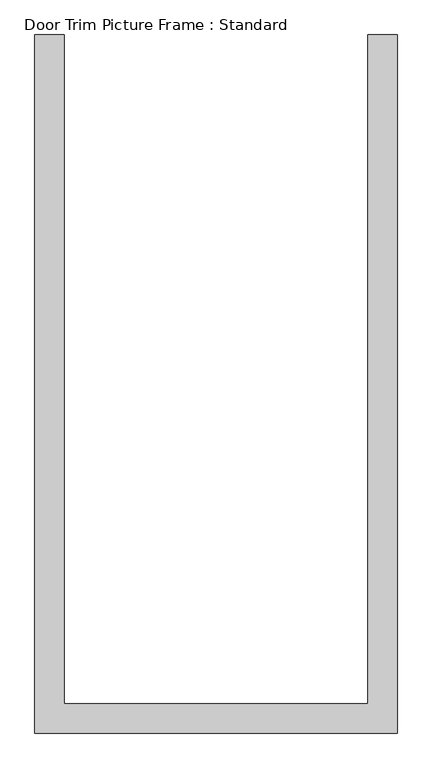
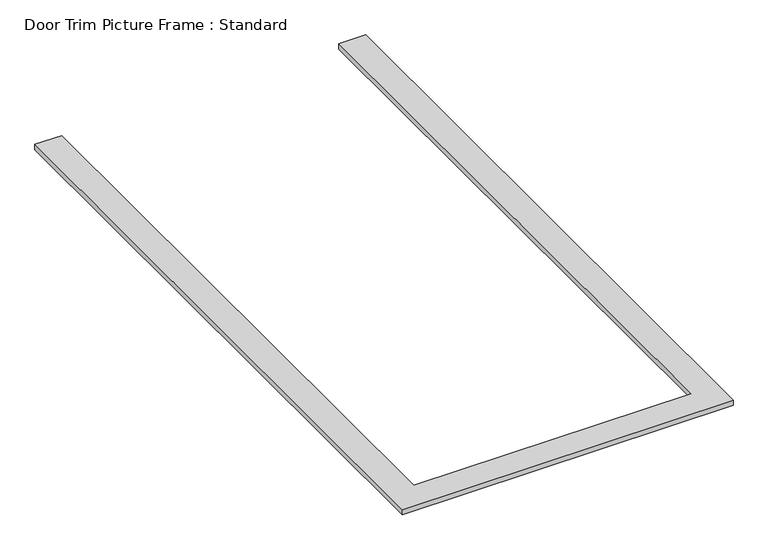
"""IFC4 building model written with IfcOpenShell, lengths in millimetres: proxy geometry, Door Trim Picture Frame : Standard."""

from ifc_helpers import new_model, si_unit, origin, origin_with_axes, place, context, project, spatial, polyline, outline, extrude, source, transform, mapped, element, save


def door_trim_picture_frame_standard_7fa4aa25(model_context):
    return source(origin(), model_context, "Body", "SweptSolid", [
        extrude(outline(polyline([(-463.55, 2057.4), (-463.55, 19.05), (463.55, 19.05), (463.55, 2057.4), (552.45, 2057.4), (552.45, -69.85), (-552.45, -69.85), (-552.45, 2057.4), (-463.55, 2057.4)])), origin_with_axes(), (0.0, 0.0, 1.0), 19.05),
    ])


if __name__ == "__main__":
    model = new_model("IFC4")
    model_context = context("Model", 3, world=origin())
    ifc_project = project(units=[si_unit("LENGTHUNIT", "METRE", prefix="MILLI")], contexts=[model_context])
    site = spatial("IfcSite", under=ifc_project)
    building = spatial("IfcBuilding", under=site)
    placement = place(None, origin())
    door_trim_picture_frame_standard_shape = door_trim_picture_frame_standard_7fa4aa25(model_context)
    element("IfcBuildingElementProxy", 1, Name="Door Trim Picture Frame : Standard", ObjectType="Door Trim Picture Frame : Standard", at=placement, inside=building, context=model_context, shape_type="MappedRepresentation", body=[
        mapped(door_trim_picture_frame_standard_shape, transform((0.0, 0.0, 0.0), x_axis=(1.0, 0.0, 0.0), y_axis=(0.0, 1.0, 0.0), z_axis=(0.0, 0.0, 1.0))),
    ])
    save(model, "model.ifc")
